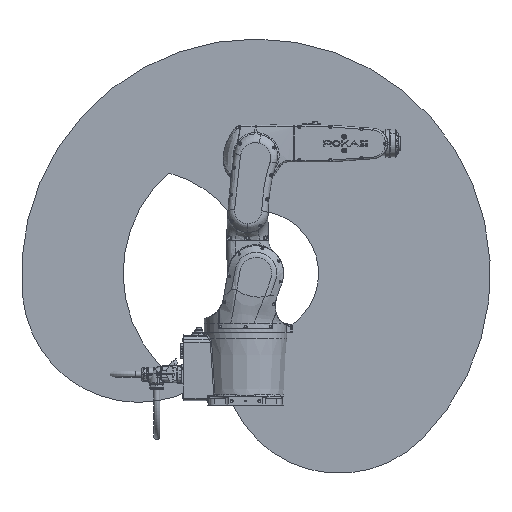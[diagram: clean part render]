
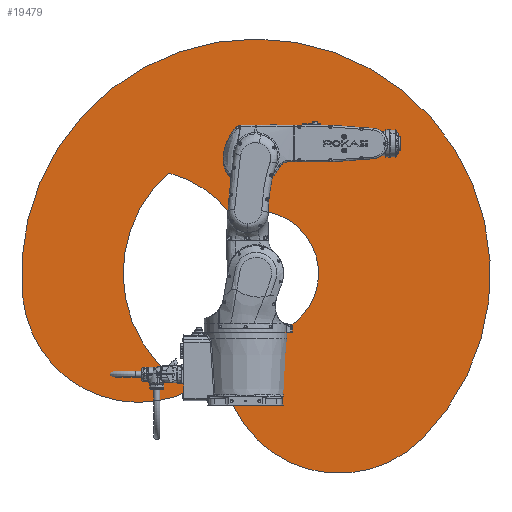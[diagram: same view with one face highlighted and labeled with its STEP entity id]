
A CAD part, front view. The second image highlights one B-rep face of the part: STEP entity #19479.
In plain terms, the highlighted planar face has unit normal (0, -1, 0).
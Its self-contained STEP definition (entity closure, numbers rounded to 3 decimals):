
#6713=CIRCLE('',#69422,180.697);
#6714=CIRCLE('',#69423,336.823);
#6715=CIRCLE('',#69424,676.823);
#6716=CIRCLE('',#69425,336.823);
#6717=CIRCLE('',#69426,383.538);
#6718=CIRCLE('',#69427,336.823);
#15478=PLANE('',#69428);
#19479=ADVANCED_FACE('',(#23168),#15478,.T.);
#23168=FACE_OUTER_BOUND('',#27725,.T.);
#27725=EDGE_LOOP('',(#45786,#45787,#45788,#45789,#45790,#45791));
#45786=ORIENTED_EDGE('',*,*,#60469,.T.);
#45787=ORIENTED_EDGE('',*,*,#60470,.T.);
#45788=ORIENTED_EDGE('',*,*,#60471,.T.);
#45789=ORIENTED_EDGE('',*,*,#60472,.T.);
#45790=ORIENTED_EDGE('',*,*,#60473,.T.);
#45791=ORIENTED_EDGE('',*,*,#60474,.T.);
#51433=VERTEX_POINT('',#175413);
#51434=VERTEX_POINT('',#175414);
#51435=VERTEX_POINT('',#175416);
#51436=VERTEX_POINT('',#175418);
#51437=VERTEX_POINT('',#175420);
#51438=VERTEX_POINT('',#175422);
#60469=EDGE_CURVE('',#51433,#51434,#6713,.T.);
#60470=EDGE_CURVE('',#51434,#51435,#6714,.T.);
#60471=EDGE_CURVE('',#51435,#51436,#6715,.T.);
#60472=EDGE_CURVE('',#51436,#51437,#6716,.T.);
#60473=EDGE_CURVE('',#51437,#51438,#6717,.T.);
#60474=EDGE_CURVE('',#51438,#51433,#6718,.T.);
#69422=AXIS2_PLACEMENT_3D('',#175412,#84596,#84597);
#69423=AXIS2_PLACEMENT_3D('',#175415,#84598,#84599);
#69424=AXIS2_PLACEMENT_3D('',#175417,#84600,#84601);
#69425=AXIS2_PLACEMENT_3D('',#175419,#84602,#84603);
#69426=AXIS2_PLACEMENT_3D('',#175421,#84604,#84605);
#69427=AXIS2_PLACEMENT_3D('',#175423,#84606,#84607);
#69428=AXIS2_PLACEMENT_3D('',#175424,#84608,#84609);
#84596=DIRECTION('',(0.,1.,0.));
#84597=DIRECTION('',(1.,0.,0.));
#84598=DIRECTION('',(0.,-1.,0.));
#84599=DIRECTION('',(1.,0.,0.));
#84600=DIRECTION('',(0.,-1.,0.));
#84601=DIRECTION('',(1.,0.,0.));
#84602=DIRECTION('',(0.,-1.,0.));
#84603=DIRECTION('',(1.,0.,0.));
#84604=DIRECTION('',(0.,1.,0.));
#84605=DIRECTION('',(1.,0.,0.));
#84606=DIRECTION('',(0.,1.,0.));
#84607=DIRECTION('',(1.,0.,0.));
#84608=DIRECTION('',(0.,-1.,0.));
#84609=DIRECTION('',(0.,0.,-1.));
#175412=CARTESIAN_POINT('',(6527.959,2056.777,0.));
#175413=CARTESIAN_POINT('',(6458.946,2056.777,166.999));
#175414=CARTESIAN_POINT('',(6441.608,2056.777,-158.729));
#175415=CARTESIAN_POINT('',(6768.375,2056.777,-240.416));
#175416=CARTESIAN_POINT('',(7006.545,2056.777,-478.586));
#175417=CARTESIAN_POINT('',(6527.959,2056.777,0.));
#175418=CARTESIAN_POINT('',(5854.844,2056.777,-70.747));
#175419=CARTESIAN_POINT('',(6189.822,2056.777,-35.54));
#175420=CARTESIAN_POINT('',(6342.55,2056.777,-335.746));
#175421=CARTESIAN_POINT('',(6527.959,2056.777,0.));
#175422=CARTESIAN_POINT('',(6276.796,2056.777,289.86));
#175423=CARTESIAN_POINT('',(6189.822,2056.777,-35.54));
#175424=CARTESIAN_POINT('',(6358.89,2056.777,-17.77));
